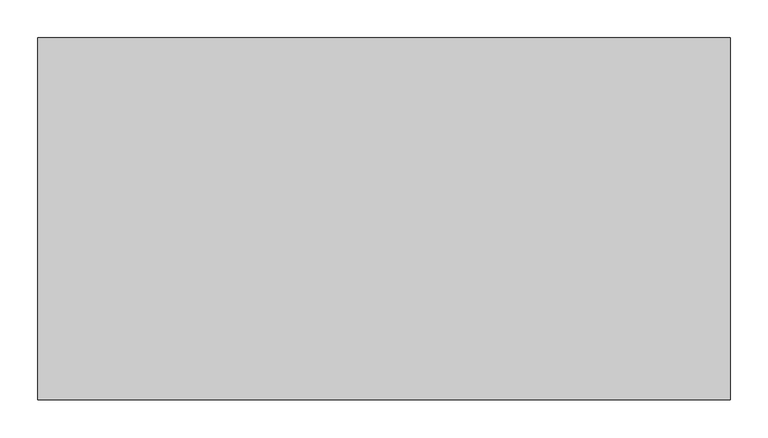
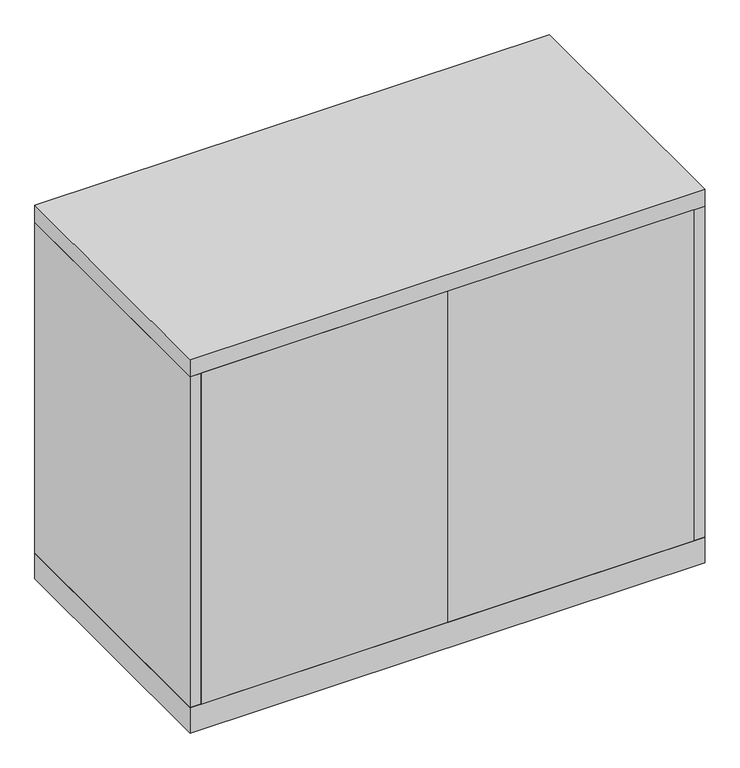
"""IFC4 building model written with IfcOpenShell, lengths in millimetres: furniture geometry, Haworth_XSeries_StorageCabinet : 18d 36w 39h."""

from ifc_helpers import new_model, si_unit, frame, origin, origin_with_axes, place, context, project, spatial, polyline, outline, extrude, source, transform, mapped, element, save


def furniture_4db793d8(model_context):
    return source(origin(), model_context, "Body", "SweptSolid", [
        extrude(outline(polyline([(-436.5625, -476.25), (-436.5625, -457.2), (0.0, -457.2), (0.0, -476.25), (-436.5625, -476.25)])), frame((0.0, 0.0, 47.625), z_axis=(0.0, 0.0, 1.0), x_axis=(1.0, 0.0, 0.0)), (0.0, 0.0, 1.0), 619.125),
        extrude(outline(polyline([(436.5625, -476.25), (0.0, -476.25), (0.0, -457.2), (436.5625, -457.2), (436.5625, -476.25)])), frame((0.0, 0.0, 47.625), z_axis=(0.0, 0.0, 1.0), x_axis=(1.0, 0.0, 0.0)), (0.0, 0.0, 1.0), 619.125),
        extrude(outline(polyline([(436.5625, -19.05), (436.5625, -457.2), (-436.5625, -457.2), (-436.5625, -19.05), (436.5625, -19.05)])), frame((0.0, 0.0, 347.6625), z_axis=(0.0, 0.0, 1.0), x_axis=(1.0, 0.0, 0.0)), (0.0, 0.0, 1.0), 19.05),
        extrude(outline(polyline([(455.6125, 0.0), (455.6125, -476.25), (-455.6125, -476.25), (-455.6125, 0.0), (455.6125, 0.0)])), origin_with_axes(), (0.0, 0.0, 1.0), 47.625),
        extrude(outline(polyline([(455.6125, 0.0), (455.6125, -476.25), (-455.6125, -476.25), (-455.6125, 0.0), (455.6125, 0.0)])), frame((0.0, 0.0, 666.75), z_axis=(0.0, 0.0, 1.0), x_axis=(1.0, 0.0, 0.0)), (0.0, 0.0, 1.0), 31.75),
        extrude(outline(polyline([(455.6125, 0.0), (455.6125, -476.25), (436.5625, -476.25), (436.5625, -19.05), (-436.5625, -19.05), (-436.5625, -476.25), (-455.6125, -476.25), (-455.6125, 0.0), (455.6125, 0.0)])), frame((0.0, 0.0, 47.625), z_axis=(0.0, 0.0, 1.0), x_axis=(1.0, 0.0, 0.0)), (0.0, 0.0, 1.0), 619.125),
    ])


if __name__ == "__main__":
    model = new_model("IFC4")
    model_context = context("Model", 3, world=origin())
    ifc_project = project(units=[si_unit("LENGTHUNIT", "METRE", prefix="MILLI")], contexts=[model_context])
    site = spatial("IfcSite", under=ifc_project)
    building = spatial("IfcBuilding", under=site)
    placement = place(None, origin())
    furniture_shape = furniture_4db793d8(model_context)
    element("IfcFurniture", 1, ObjectType="Haworth_XSeries_StorageCabinet : 18d 36w 39h", at=placement, inside=building, context=model_context, shape_type="MappedRepresentation", body=[
        mapped(furniture_shape, transform((0.0, 0.0, 0.0), x_axis=(1.0, 0.0, 0.0), y_axis=(0.0, 1.0, 0.0), z_axis=(0.0, 0.0, 1.0))),
    ])
    save(model, "model.ifc")
